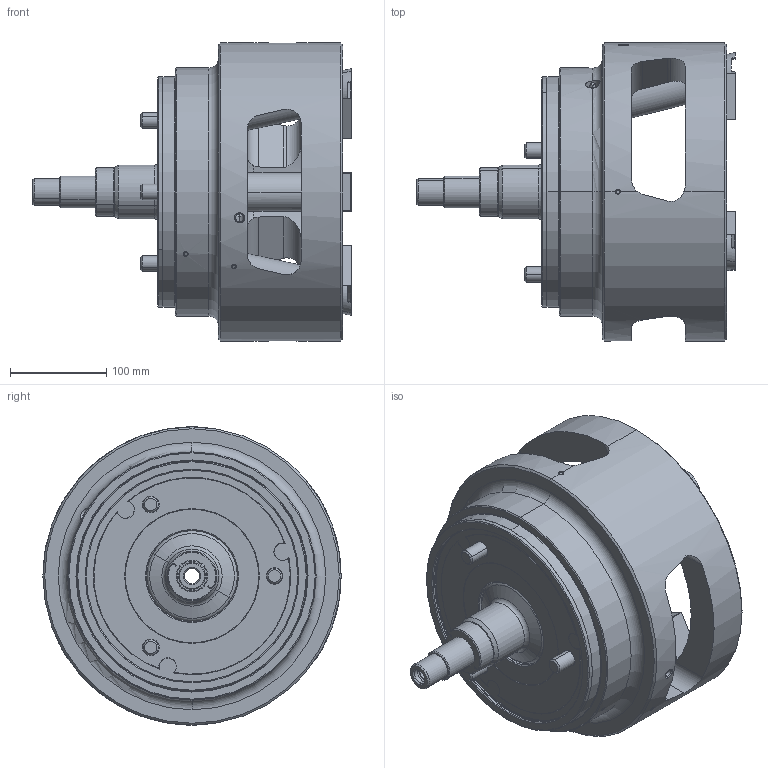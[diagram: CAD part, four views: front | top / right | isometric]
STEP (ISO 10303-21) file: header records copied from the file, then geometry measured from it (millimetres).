
FILE_DESCRIPTION (( 'STEP AP214' ), '1' );
FILE_NAME ('PUD12_UC.STEP', '2019-10-16T07:27:45', ( '' ), ( '' ), 'SwSTEP 2.0', 'SolidWorks 2017', '' );
FILE_SCHEMA (( 'AUTOMOTIVE_DESIGN' ));
Length unit declared in the file: millimetre
Products named in the file (4): Part22^61P278439_dummy; 0030112030; 61P835631; PUD12_UC
Assembly tree (7 placements, depth 2):
  PUD12_UC
    61P835631  x3
    0030112030  x3
    Part22^61P278439_dummy
Bounding box: 331 x 310 x 310 mm (x, y, z)
Volume: 7004815.3 mm3; surface area: 533020.7 mm2
Topology: 9 solids, 9 shells, 2760 faces, 7292 edges, 4731 vertices
Faces by surface type: plane 1473, bspline 774, cone 251, cylinder 208, torus 54
Entity records: 118417 total; most frequent: CARTESIAN_POINT 57332, ORIENTED_EDGE 14056, DIRECTION 9694, EDGE_CURVE 7028, VERTEX_POINT 4597, VECTOR 4594, LINE 4594, EDGE_LOOP 2885
